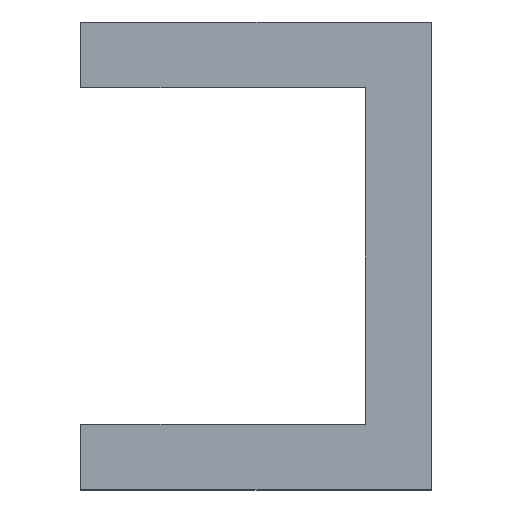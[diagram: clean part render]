
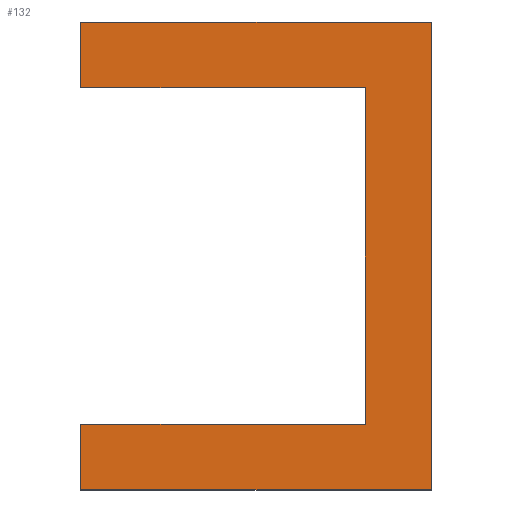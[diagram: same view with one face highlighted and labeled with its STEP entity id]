
A CAD part, left-side view. The second image highlights one B-rep face of the part: STEP entity #132.
In plain terms, the highlighted planar face has unit normal (-1, 0, 0).
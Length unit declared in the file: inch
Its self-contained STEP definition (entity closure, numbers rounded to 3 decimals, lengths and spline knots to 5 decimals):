
#4 = VECTOR ( 'NONE', #534, 39.37008 ) ;
#5 = DIRECTION ( 'NONE',  ( 0., -1., 0. ) ) ;
#13 = VECTOR ( 'NONE', #274, 39.37008 ) ;
#23 = EDGE_CURVE ( 'NONE', #265, #240, #203, .T. ) ;
#26 = CARTESIAN_POINT ( 'NONE',  ( -2.1, 0., -0.256 ) ) ;
#29 = DIRECTION ( 'NONE',  ( 1., 0., 0. ) ) ;
#33 = DIRECTION ( 'NONE',  ( 0., 0., -1. ) ) ;
#36 = EDGE_CURVE ( 'NONE', #112, #172, #153, .T. ) ;
#41 = CARTESIAN_POINT ( 'NONE',  ( -2.1, 0.433, -0.256 ) ) ;
#63 = VERTEX_POINT ( 'NONE', #121 ) ;
#72 = LINE ( 'NONE', #316, #80 ) ;
#80 = VECTOR ( 'NONE', #243, 39.37008 ) ;
#87 = LINE ( 'NONE', #471, #312 ) ;
#112 = VERTEX_POINT ( 'NONE', #115 ) ;
#115 = CARTESIAN_POINT ( 'NONE',  ( -2.1, 0., -0.256 ) ) ;
#118 = EDGE_CURVE ( 'NONE', #63, #420, #363, .T. ) ;
#121 = CARTESIAN_POINT ( 'NONE',  ( -2.1, -0.1, 0.356 ) ) ;
#132 = ADVANCED_FACE ( 'NONE', ( #163 ), #233, .F. ) ;
#142 = CARTESIAN_POINT ( 'NONE',  ( -2.1, 0.433, -0.356 ) ) ;
#149 = ORIENTED_EDGE ( 'NONE', *, *, #300, .T. ) ;
#150 = EDGE_CURVE ( 'NONE', #298, #63, #449, .T. ) ;
#153 = LINE ( 'NONE', #361, #262 ) ;
#157 = AXIS2_PLACEMENT_3D ( 'NONE', #276, #29, #33 ) ;
#163 = FACE_OUTER_BOUND ( 'NONE', #231, .T. ) ;
#172 = VERTEX_POINT ( 'NONE', #225 ) ;
#184 = CARTESIAN_POINT ( 'NONE',  ( -2.1, -0.1, -0.356 ) ) ;
#190 = VERTEX_POINT ( 'NONE', #142 ) ;
#195 = DIRECTION ( 'NONE',  ( 0., 1., 0. ) ) ;
#202 = EDGE_CURVE ( 'NONE', #190, #172, #72, .T. ) ;
#203 = LINE ( 'NONE', #445, #358 ) ;
#207 = CARTESIAN_POINT ( 'NONE',  ( -2.1, 0., 0.256 ) ) ;
#214 = ORIENTED_EDGE ( 'NONE', *, *, #23, .F. ) ;
#220 = EDGE_CURVE ( 'NONE', #240, #298, #324, .T. ) ;
#225 = CARTESIAN_POINT ( 'NONE',  ( -2.1, 0.433, -0.256 ) ) ;
#229 = EDGE_CURVE ( 'NONE', #112, #265, #365, .T. ) ;
#230 = ORIENTED_EDGE ( 'NONE', *, *, #202, .F. ) ;
#231 = EDGE_LOOP ( 'NONE', ( #338, #214, #440, #423, #230, #149, #401, #302 ) ) ;
#233 = PLANE ( 'NONE',  #157 ) ;
#236 = CARTESIAN_POINT ( 'NONE',  ( -2.1, 0.433, 0.356 ) ) ;
#240 = VERTEX_POINT ( 'NONE', #546 ) ;
#243 = DIRECTION ( 'NONE',  ( 0., 0., 1. ) ) ;
#262 = VECTOR ( 'NONE', #501, 39.37008 ) ;
#263 = VECTOR ( 'NONE', #539, 39.37008 ) ;
#265 = VERTEX_POINT ( 'NONE', #207 ) ;
#274 = DIRECTION ( 'NONE',  ( 0., 0., -1. ) ) ;
#276 = CARTESIAN_POINT ( 'NONE',  ( -2.1, 0.433, -0.256 ) ) ;
#298 = VERTEX_POINT ( 'NONE', #511 ) ;
#300 = EDGE_CURVE ( 'NONE', #190, #420, #87, .T. ) ;
#302 = ORIENTED_EDGE ( 'NONE', *, *, #150, .F. ) ;
#312 = VECTOR ( 'NONE', #5, 39.37008 ) ;
#316 = CARTESIAN_POINT ( 'NONE',  ( -2.1, 0.433, -0.256 ) ) ;
#324 = LINE ( 'NONE', #41, #263 ) ;
#338 = ORIENTED_EDGE ( 'NONE', *, *, #220, .F. ) ;
#358 = VECTOR ( 'NONE', #195, 39.37008 ) ;
#361 = CARTESIAN_POINT ( 'NONE',  ( -2.1, -0.52167, -0.256 ) ) ;
#363 = LINE ( 'NONE', #409, #13 ) ;
#365 = LINE ( 'NONE', #26, #4 ) ;
#401 = ORIENTED_EDGE ( 'NONE', *, *, #118, .F. ) ;
#409 = CARTESIAN_POINT ( 'NONE',  ( -2.1, -0.1, 0.356 ) ) ;
#420 = VERTEX_POINT ( 'NONE', #184 ) ;
#423 = ORIENTED_EDGE ( 'NONE', *, *, #36, .T. ) ;
#440 = ORIENTED_EDGE ( 'NONE', *, *, #229, .F. ) ;
#445 = CARTESIAN_POINT ( 'NONE',  ( -2.1, -0.52167, 0.256 ) ) ;
#449 = LINE ( 'NONE', #236, #476 ) ;
#471 = CARTESIAN_POINT ( 'NONE',  ( -2.1, 0.433, -0.356 ) ) ;
#476 = VECTOR ( 'NONE', #508, 39.37008 ) ;
#501 = DIRECTION ( 'NONE',  ( 0., 1., 0. ) ) ;
#508 = DIRECTION ( 'NONE',  ( 0., -1., 0. ) ) ;
#511 = CARTESIAN_POINT ( 'NONE',  ( -2.1, 0.433, 0.356 ) ) ;
#534 = DIRECTION ( 'NONE',  ( 0., 0., 1. ) ) ;
#539 = DIRECTION ( 'NONE',  ( 0., 0., 1. ) ) ;
#546 = CARTESIAN_POINT ( 'NONE',  ( -2.1, 0.433, 0.256 ) ) ;
